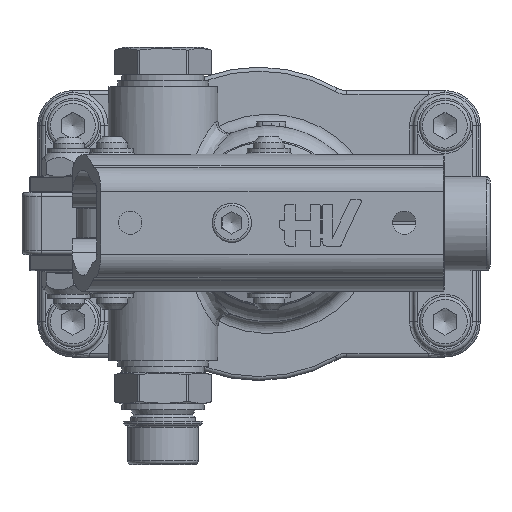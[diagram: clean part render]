
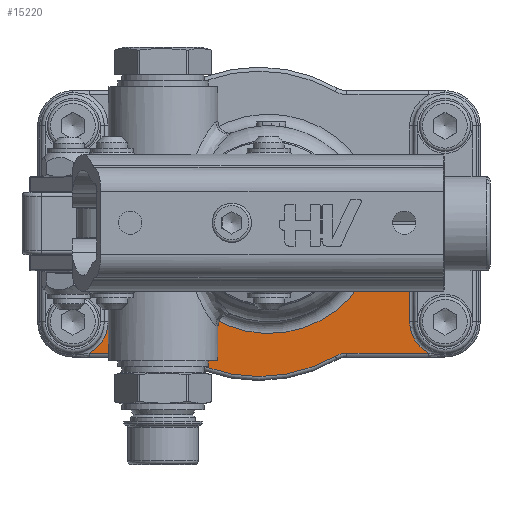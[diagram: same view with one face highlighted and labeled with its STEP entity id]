
A CAD part, top view. The second image highlights one B-rep face of the part: STEP entity #15220.
In plain terms, the highlighted planar face has unit normal (0, 0, 1).
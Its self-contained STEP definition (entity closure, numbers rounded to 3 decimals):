
#13904=CARTESIAN_POINT('',(34.05,1.,6.));
#13905=VERTEX_POINT('',#13904);
#13913=CARTESIAN_POINT('',(13.123,1.,6.));
#13914=VERTEX_POINT('',#13913);
#13915=CARTESIAN_POINT('',(34.05,1.,6.));
#13916=DIRECTION('',(-1.0,0.0,0.0));
#13917=VECTOR('',#13916,20.927);
#13918=LINE('',#13915,#13917);
#13919=EDGE_CURVE('',#13905,#13914,#13918,.T.);
#13944=CARTESIAN_POINT('',(37.043,0.2,6.));
#13945=VERTEX_POINT('',#13944);
#13953=CARTESIAN_POINT('',(34.05,-5.0,6.));
#13954=DIRECTION('',(0.0,0.0,1.0));
#13955=DIRECTION('',(0.258,0.966,0.0));
#13956=AXIS2_PLACEMENT_3D('',#13953,#13954,#13955);
#13957=CIRCLE('',#13956,6.0);
#13958=EDGE_CURVE('',#13945,#13905,#13957,.T.);
#13970=CARTESIAN_POINT('',(75.957,0.2,6.));
#13971=VERTEX_POINT('',#13970);
#13979=CARTESIAN_POINT('',(56.5,34.0,6.));
#13980=DIRECTION('',(0.0,0.0,-1.0));
#13981=DIRECTION('',(0.0,-1.0,0.0));
#13982=AXIS2_PLACEMENT_3D('',#13979,#13980,#13981);
#13983=CIRCLE('',#13982,39.0);
#13984=EDGE_CURVE('',#13971,#13945,#13983,.T.);
#13996=CARTESIAN_POINT('',(78.95,1.0,6.));
#13997=VERTEX_POINT('',#13996);
#14005=CARTESIAN_POINT('',(78.95,-5.0,6.));
#14006=DIRECTION('',(0.0,0.0,1.0));
#14007=DIRECTION('',(-0.258,0.966,0.0));
#14008=AXIS2_PLACEMENT_3D('',#14005,#14006,#14007);
#14009=CIRCLE('',#14008,6.);
#14010=EDGE_CURVE('',#13997,#13971,#14009,.T.);
#14022=CARTESIAN_POINT('',(99.877,1.,6.));
#14023=VERTEX_POINT('',#14022);
#14031=CARTESIAN_POINT('',(99.877,1.,6.));
#14032=DIRECTION('',(-1.0,0.0,0.0));
#14033=VECTOR('',#14032,20.927);
#14034=LINE('',#14031,#14033);
#14035=EDGE_CURVE('',#14023,#13997,#14034,.T.);
#14492=CARTESIAN_POINT('',(95.0,9.0,6.));
#14493=VERTEX_POINT('',#14492);
#14501=CARTESIAN_POINT('',(104.0,9.,6.));
#14502=DIRECTION('',(0.0,0.0,1.0));
#14503=DIRECTION('',(0.0,-1.0,0.0));
#14504=AXIS2_PLACEMENT_3D('',#14501,#14502,#14503);
#14505=CIRCLE('',#14504,9.0);
#14506=EDGE_CURVE('',#14493,#14023,#14505,.T.);
#14938=CARTESIAN_POINT('',(95.,23.5,6.));
#14939=VERTEX_POINT('',#14938);
#14947=CARTESIAN_POINT('',(95.,23.5,6.));
#14948=DIRECTION('',(0.0,-1.0,0.0));
#14949=VECTOR('',#14948,14.5);
#14950=LINE('',#14947,#14949);
#14951=EDGE_CURVE('',#14939,#14493,#14950,.T.);
#15149=CARTESIAN_POINT('',(56.5,34.,6.));
#15150=DIRECTION('',(0.0,0.0,1.0));
#15151=DIRECTION('',(1.0,0.0,0.0));
#15152=AXIS2_PLACEMENT_3D('',#15149,#15150,#15151);
#15153=PLANE('',#15152);
#15154=ORIENTED_EDGE('',*,*,#14035,.F.);
#15155=ORIENTED_EDGE('',*,*,#14506,.F.);
#15156=ORIENTED_EDGE('',*,*,#14951,.F.);
#15157=CARTESIAN_POINT('',(84.957,23.5,6.));
#15158=VERTEX_POINT('',#15157);
#15159=CARTESIAN_POINT('',(84.957,23.5,6.));
#15160=DIRECTION('',(1.0,0.0,0.0));
#15161=VECTOR('',#15160,10.043);
#15162=LINE('',#15159,#15161);
#15163=EDGE_CURVE('',#15158,#14939,#15162,.T.);
#15164=ORIENTED_EDGE('',*,*,#15163,.F.);
#15165=CARTESIAN_POINT('',(40.187,13.262,6.));
#15166=VERTEX_POINT('',#15165);
#15167=CARTESIAN_POINT('',(59.,34.0,6.));
#15168=DIRECTION('',(0.0,0.0,1.0));
#15169=DIRECTION('',(0.231,0.973,0.0));
#15170=AXIS2_PLACEMENT_3D('',#15167,#15168,#15169);
#15171=CIRCLE('',#15170,28.);
#15172=EDGE_CURVE('',#15166,#15158,#15171,.T.);
#15173=ORIENTED_EDGE('',*,*,#15172,.F.);
#15174=CARTESIAN_POINT('',(23.,17.,6.));
#15175=VERTEX_POINT('',#15174);
#15176=CARTESIAN_POINT('',(32.,17.,6.));
#15177=DIRECTION('',(0.0,0.0,1.0));
#15178=DIRECTION('',(-0.91,0.415,0.0));
#15179=AXIS2_PLACEMENT_3D('',#15176,#15177,#15178);
#15180=CIRCLE('',#15179,9.0);
#15181=EDGE_CURVE('',#15175,#15166,#15180,.T.);
#15182=ORIENTED_EDGE('',*,*,#15181,.F.);
#15183=CARTESIAN_POINT('',(23.,23.,6.));
#15184=VERTEX_POINT('',#15183);
#15185=CARTESIAN_POINT('',(23.,23.,6.));
#15186=DIRECTION('',(0.0,-1.0,0.0));
#15187=VECTOR('',#15186,6.);
#15188=LINE('',#15185,#15187);
#15189=EDGE_CURVE('',#15184,#15175,#15188,.T.);
#15190=ORIENTED_EDGE('',*,*,#15189,.F.);
#15191=CARTESIAN_POINT('',(18.,23.,6.));
#15192=VERTEX_POINT('',#15191);
#15193=CARTESIAN_POINT('',(18.,23.,6.));
#15194=DIRECTION('',(1.0,0.0,0.0));
#15195=VECTOR('',#15194,5.);
#15196=LINE('',#15193,#15195);
#15197=EDGE_CURVE('',#15192,#15184,#15196,.T.);
#15198=ORIENTED_EDGE('',*,*,#15197,.F.);
#15199=CARTESIAN_POINT('',(18.,9.,6.));
#15200=VERTEX_POINT('',#15199);
#15201=CARTESIAN_POINT('',(18.0,9.0,6.));
#15202=DIRECTION('',(0.0,1.0,0.0));
#15203=VECTOR('',#15202,14.);
#15204=LINE('',#15201,#15203);
#15205=EDGE_CURVE('',#15200,#15192,#15204,.T.);
#15206=ORIENTED_EDGE('',*,*,#15205,.F.);
#15207=CARTESIAN_POINT('',(9.,9.0,6.));
#15208=DIRECTION('',(0.0,0.0,1.0));
#15209=DIRECTION('',(0.0,-1.0,0.0));
#15210=AXIS2_PLACEMENT_3D('',#15207,#15208,#15209);
#15211=CIRCLE('',#15210,9.0);
#15212=EDGE_CURVE('',#13914,#15200,#15211,.T.);
#15213=ORIENTED_EDGE('',*,*,#15212,.F.);
#15214=ORIENTED_EDGE('',*,*,#13919,.F.);
#15215=ORIENTED_EDGE('',*,*,#13958,.F.);
#15216=ORIENTED_EDGE('',*,*,#13984,.F.);
#15217=ORIENTED_EDGE('',*,*,#14010,.F.);
#15218=EDGE_LOOP('',(#15154,#15155,#15156,#15164,#15173,#15182,#15190,#15198,#15206,#15213,#15214,#15215,#15216,#15217));
#15219=FACE_OUTER_BOUND('',#15218,.T.);
#15220=ADVANCED_FACE('',(#15219),#15153,.T.);
